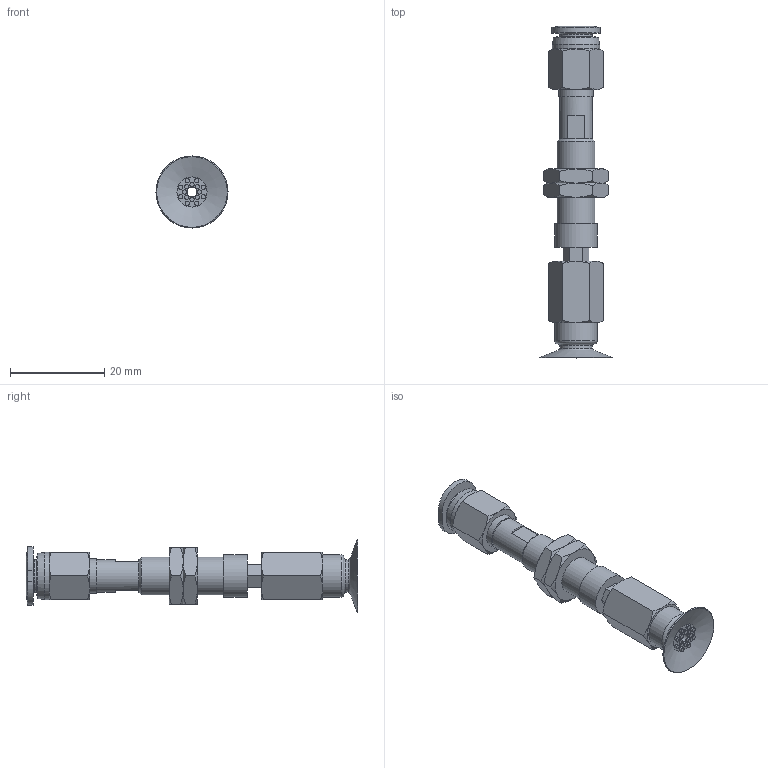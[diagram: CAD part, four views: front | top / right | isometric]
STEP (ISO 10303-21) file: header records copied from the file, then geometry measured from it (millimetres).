
FILE_DESCRIPTION(('STEP AP203'),'1');
FILE_NAME('-O.stp','2025-08-12T08:10:21',(' '),(' '),'Spatial InterOp 3D',' ',' ');
FILE_SCHEMA(('CONFIG_CONTROL_DESIGN'));
Length unit declared in the file: millimetre
Products named in the file (7): BNABPATH-15A-3-※-O; NAPATH-10A-3--F; Nut-10A-S; PC-C_06-M5; BPAG-15A-※; NAPATH-10A-3--M; ADAPTER
Assembly tree (7 placements, depth 2):
  BNABPATH-15A-3-※-O
    NAPATH-10A-3--F
    Nut-10A-S  x2
    PC-C_06-M5
    BPAG-15A-※
    NAPATH-10A-3--M
    ADAPTER
Bounding box: 15.3 x 70.48 x 15.3 mm (x, y, z)
Volume: 4217.1 mm3; surface area: 5272.8 mm2
Topology: 7 solids, 7 shells, 205 faces, 411 edges, 252 vertices
Faces by surface type: plane 86, cone 61, cylinder 40, torus 11, bspline 4, revolution 3
Full cylindrical faces by diameter (mm): 0.9 x16, 2 x3, 4 x4, 4.134 x1, 5 x1, 6 x2, 7 x3, 7.188 x2, 7.4 x1, 8 x1, 8.2 x1, 9 x2, 10 x1
Entity records: 5100 total; most frequent: CARTESIAN_POINT 1345, DIRECTION 715, ORIENTED_EDGE 584, AXIS2_PLACEMENT_3D 320, EDGE_CURVE 292, EDGE_LOOP 284, FACE_OUTER_BOUND 230, VERTEX_POINT 214
